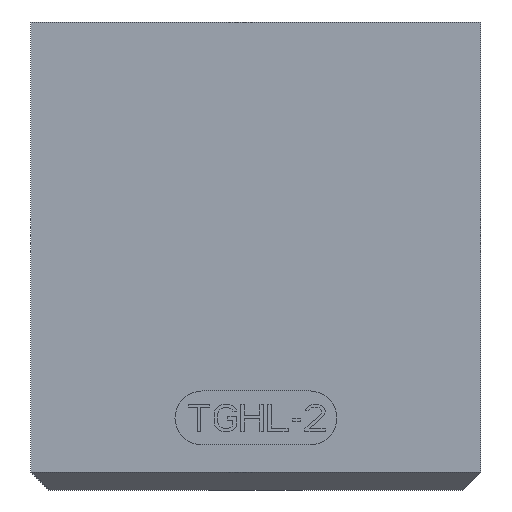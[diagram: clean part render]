
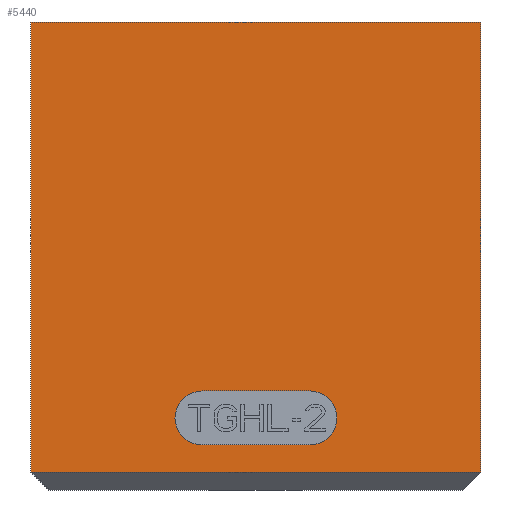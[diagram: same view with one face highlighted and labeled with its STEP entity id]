
A CAD part, front view. The second image highlights one B-rep face of the part: STEP entity #5440.
In plain terms, the highlighted planar face has unit normal (0, -1, 0).
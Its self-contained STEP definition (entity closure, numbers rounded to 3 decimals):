
#396=DIRECTION('',(1.,0.,0.));
#397=VECTOR('',#396,25.);
#398=CARTESIAN_POINT('',(-3.2,-5.,3.));
#399=LINE('',#398,#397);
#461=DIRECTION('',(0.,0.,1.));
#462=VECTOR('',#461,25.);
#463=CARTESIAN_POINT('',(21.8,-5.,-22.));
#464=LINE('',#463,#462);
#592=DIRECTION('',(-1.,0.,0.));
#593=VECTOR('',#592,25.);
#594=CARTESIAN_POINT('',(21.8,-5.,-22.));
#595=LINE('',#594,#593);
#599=DIRECTION('',(0.,0.,1.));
#600=VECTOR('',#599,25.);
#601=CARTESIAN_POINT('',(-3.2,-5.,-22.));
#602=LINE('',#601,#600);
#606=CARTESIAN_POINT('',(6.3,-5.,-19.));
#607=DIRECTION('',(0.,-1.,0.));
#608=DIRECTION('',(0.,0.,1.));
#609=AXIS2_PLACEMENT_3D('',#606,#607,#608);
#614=DIRECTION('',(1.,0.,0.));
#615=VECTOR('',#614,6.);
#616=CARTESIAN_POINT('',(6.3,-5.,-20.5));
#617=LINE('',#616,#615);
#621=CARTESIAN_POINT('',(12.3,-5.,-19.));
#622=DIRECTION('',(0.,-1.,0.));
#623=DIRECTION('',(0.,0.,-1.));
#624=AXIS2_PLACEMENT_3D('',#621,#622,#623);
#629=DIRECTION('',(-1.,0.,0.));
#630=VECTOR('',#629,6.);
#631=CARTESIAN_POINT('',(12.3,-5.,-17.5));
#632=LINE('',#631,#630);
#4087=CARTESIAN_POINT('',(-3.2,-5.,3.));
#4089=VERTEX_POINT('',#4087);
#4090=CARTESIAN_POINT('',(21.8,-5.,3.));
#4091=VERTEX_POINT('',#4090);
#4126=CARTESIAN_POINT('',(-3.2,-5.,-22.));
#4127=VERTEX_POINT('',#4126);
#4132=CARTESIAN_POINT('',(21.8,-5.,-22.));
#4133=VERTEX_POINT('',#4132);
#4164=CARTESIAN_POINT('',(6.3,-5.,-17.5));
#4165=CARTESIAN_POINT('',(6.3,-5.,-20.5));
#4166=VERTEX_POINT('',#4164);
#4167=VERTEX_POINT('',#4165);
#4168=CARTESIAN_POINT('',(12.3,-5.,-20.5));
#4169=VERTEX_POINT('',#4168);
#4170=CARTESIAN_POINT('',(12.3,-5.,-17.5));
#4171=VERTEX_POINT('',#4170);
#5419=CARTESIAN_POINT('',(-3.2,-5.,-23.));
#5420=DIRECTION('',(0.,-1.,0.));
#5421=DIRECTION('',(1.,0.,0.));
#5422=AXIS2_PLACEMENT_3D('',#5419,#5420,#5421);
#5423=PLANE('',#5422);
#5424=ORIENTED_EDGE('',*,*,#5413,.T.);
#5425=ORIENTED_EDGE('',*,*,#5388,.T.);
#5426=ORIENTED_EDGE('',*,*,#5278,.T.);
#5427=ORIENTED_EDGE('',*,*,#5300,.F.);
#5428=EDGE_LOOP('',(#5424,#5425,#5426,#5427));
#5429=FACE_OUTER_BOUND('',#5428,.F.);
#5431=ORIENTED_EDGE('',*,*,#5430,.T.);
#5433=ORIENTED_EDGE('',*,*,#5432,.T.);
#5435=ORIENTED_EDGE('',*,*,#5434,.T.);
#5437=ORIENTED_EDGE('',*,*,#5436,.T.);
#5438=EDGE_LOOP('',(#5431,#5433,#5435,#5437));
#5439=FACE_BOUND('',#5438,.F.);
#610=CIRCLE('',#609,1.5);
#625=CIRCLE('',#624,1.5);
#5278=EDGE_CURVE('',#4089,#4091,#399,.T.);
#5300=EDGE_CURVE('',#4133,#4091,#464,.T.);
#5388=EDGE_CURVE('',#4127,#4089,#602,.T.);
#5413=EDGE_CURVE('',#4133,#4127,#595,.T.);
#5430=EDGE_CURVE('',#4166,#4167,#610,.T.);
#5432=EDGE_CURVE('',#4167,#4169,#617,.T.);
#5434=EDGE_CURVE('',#4169,#4171,#625,.T.);
#5436=EDGE_CURVE('',#4171,#4166,#632,.T.);
#5440=ADVANCED_FACE('',(#5429,#5439),#5423,.T.);
